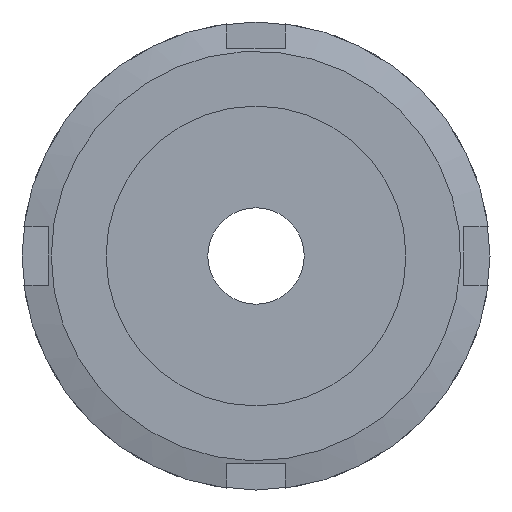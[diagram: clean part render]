
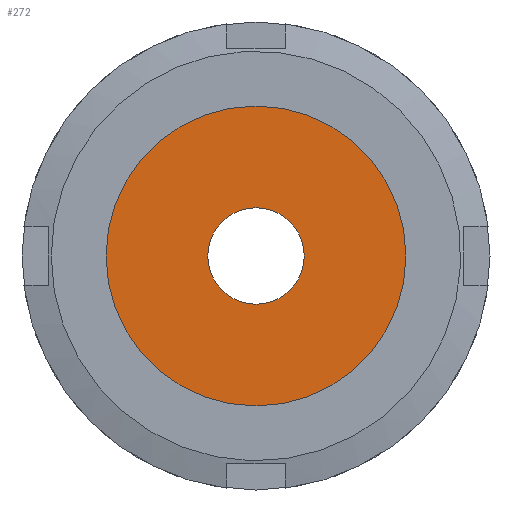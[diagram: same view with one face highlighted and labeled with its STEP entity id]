
A CAD part, left-side view. The second image highlights one B-rep face of the part: STEP entity #272.
In plain terms, the highlighted planar face has unit normal (-1, 0, 0) as drawn and (0, -1, 0) by its records, which use the part's own axes.
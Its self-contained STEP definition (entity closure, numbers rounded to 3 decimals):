
#272 = ADVANCED_FACE( '', ( #398, #399 ), #400, .T. );
#398 = FACE_OUTER_BOUND( '', #603, .T. );
#399 = FACE_BOUND( '', #604, .T. );
#400 = PLANE( '', #605 );
#603 = EDGE_LOOP( '', ( #949 ) );
#604 = EDGE_LOOP( '', ( #950 ) );
#605 = AXIS2_PLACEMENT_3D( '', #951, #952, #953 );
#949 = ORIENTED_EDGE( '', *, *, #1409, .T. );
#950 = ORIENTED_EDGE( '', *, *, #1410, .F. );
#951 = CARTESIAN_POINT( '', ( 3.3, 0., 0. ) );
#952 = DIRECTION( '', ( 0., -1., 0. ) );
#953 = DIRECTION( '', ( 0., 0., -1. ) );
#1409 = EDGE_CURVE( '', #1634, #1634, #1635, .T. );
#1410 = EDGE_CURVE( '', #1636, #1636, #1637, .T. );
#1634 = VERTEX_POINT( '', #2088 );
#1635 = CIRCLE( '', #2089, 10.25 );
#1636 = VERTEX_POINT( '', #2090 );
#1637 = CIRCLE( '', #2091, 3.3 );
#2088 = CARTESIAN_POINT( '', ( 0., 0., -10.25 ) );
#2089 = AXIS2_PLACEMENT_3D( '', #2560, #2561, #2562 );
#2090 = CARTESIAN_POINT( '', ( 0., 0., -3.3 ) );
#2091 = AXIS2_PLACEMENT_3D( '', #2563, #2564, #2565 );
#2560 = CARTESIAN_POINT( '', ( 0., 0., 0. ) );
#2561 = DIRECTION( '', ( 0., -1., 0. ) );
#2562 = DIRECTION( '', ( 0., 0., -1. ) );
#2563 = CARTESIAN_POINT( '', ( 0., 0., 0. ) );
#2564 = DIRECTION( '', ( 0., -1., 0. ) );
#2565 = DIRECTION( '', ( 0., 0., -1. ) );
